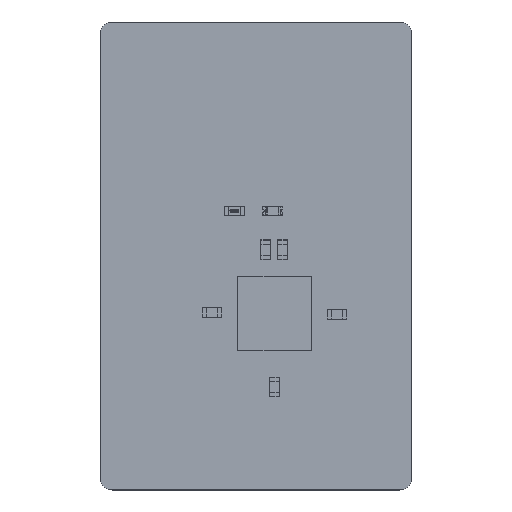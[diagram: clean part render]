
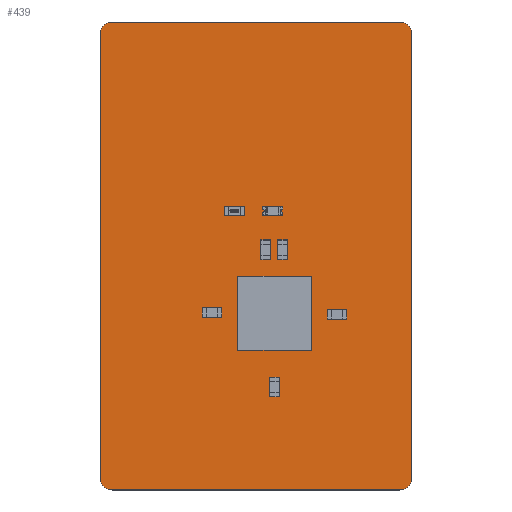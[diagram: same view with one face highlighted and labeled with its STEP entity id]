
A CAD part, top view. The second image highlights one B-rep face of the part: STEP entity #439.
In plain terms, the highlighted planar face has unit normal (0, 0, 1).
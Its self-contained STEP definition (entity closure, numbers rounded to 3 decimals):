
#174 = VERTEX_POINT('',#175);
#175 = CARTESIAN_POINT('',(-1.27,-35.83,0.));
#181 = EDGE_CURVE('',#174,#182,#184,.T.);
#182 = VERTEX_POINT('',#183);
#183 = CARTESIAN_POINT('',(-1.27,0.27,0.));
#184 = LINE('',#185,#186);
#185 = CARTESIAN_POINT('',(-1.27,-35.83,0.));
#186 = VECTOR('',#187,1.);
#187 = DIRECTION('',(0.,1.,0.));
#212 = EDGE_CURVE('',#182,#213,#215,.T.);
#213 = VERTEX_POINT('',#214);
#214 = CARTESIAN_POINT('',(-0.27,1.27,0.));
#215 = CIRCLE('',#216,1.);
#216 = AXIS2_PLACEMENT_3D('',#217,#218,#219);
#217 = CARTESIAN_POINT('',(-0.27,0.27,0.));
#218 = DIRECTION('',(0.,0.,-1.));
#219 = DIRECTION('',(-1.,0.,0.));
#245 = EDGE_CURVE('',#213,#246,#248,.T.);
#246 = VERTEX_POINT('',#247);
#247 = CARTESIAN_POINT('',(23.13,1.27,0.));
#248 = LINE('',#249,#250);
#249 = CARTESIAN_POINT('',(-0.27,1.27,0.));
#250 = VECTOR('',#251,1.);
#251 = DIRECTION('',(1.,0.,0.));
#276 = EDGE_CURVE('',#246,#277,#279,.T.);
#277 = VERTEX_POINT('',#278);
#278 = CARTESIAN_POINT('',(24.13,0.27,0.));
#279 = CIRCLE('',#280,1.);
#280 = AXIS2_PLACEMENT_3D('',#281,#282,#283);
#281 = CARTESIAN_POINT('',(23.13,0.27,0.));
#282 = DIRECTION('',(0.,0.,-1.));
#283 = DIRECTION('',(0.,1.,0.));
#309 = EDGE_CURVE('',#277,#310,#312,.T.);
#310 = VERTEX_POINT('',#311);
#311 = CARTESIAN_POINT('',(24.13,-35.83,0.));
#312 = LINE('',#313,#314);
#313 = CARTESIAN_POINT('',(24.13,0.27,0.));
#314 = VECTOR('',#315,1.);
#315 = DIRECTION('',(0.,-1.,0.));
#340 = EDGE_CURVE('',#310,#341,#343,.T.);
#341 = VERTEX_POINT('',#342);
#342 = CARTESIAN_POINT('',(23.13,-36.83,0.));
#343 = CIRCLE('',#344,1.);
#344 = AXIS2_PLACEMENT_3D('',#345,#346,#347);
#345 = CARTESIAN_POINT('',(23.13,-35.83,0.));
#346 = DIRECTION('',(0.,0.,-1.));
#347 = DIRECTION('',(1.,0.,0.));
#373 = EDGE_CURVE('',#341,#374,#376,.T.);
#374 = VERTEX_POINT('',#375);
#375 = CARTESIAN_POINT('',(-0.27,-36.83,0.));
#376 = LINE('',#377,#378);
#377 = CARTESIAN_POINT('',(23.13,-36.83,0.));
#378 = VECTOR('',#379,1.);
#379 = DIRECTION('',(-1.,0.,0.));
#404 = EDGE_CURVE('',#374,#174,#405,.T.);
#405 = CIRCLE('',#406,1.);
#406 = AXIS2_PLACEMENT_3D('',#407,#408,#409);
#407 = CARTESIAN_POINT('',(-0.27,-35.83,0.));
#408 = DIRECTION('',(0.,0.,-1.));
#409 = DIRECTION('',(0.,-1.,0.));
#439 = ADVANCED_FACE('',(#440),#450,.T.);
#440 = FACE_BOUND('',#441,.F.);
#441 = EDGE_LOOP('',(#442,#443,#444,#445,#446,#447,#448,#449));
#442 = ORIENTED_EDGE('',*,*,#181,.T.);
#443 = ORIENTED_EDGE('',*,*,#212,.T.);
#444 = ORIENTED_EDGE('',*,*,#245,.T.);
#445 = ORIENTED_EDGE('',*,*,#276,.T.);
#446 = ORIENTED_EDGE('',*,*,#309,.T.);
#447 = ORIENTED_EDGE('',*,*,#340,.T.);
#448 = ORIENTED_EDGE('',*,*,#373,.T.);
#449 = ORIENTED_EDGE('',*,*,#404,.T.);
#450 = PLANE('',#451);
#451 = AXIS2_PLACEMENT_3D('',#452,#453,#454);
#452 = CARTESIAN_POINT('',(-1.27,-35.83,0.));
#453 = DIRECTION('',(0.,0.,1.));
#454 = DIRECTION('',(1.,0.,0.));
